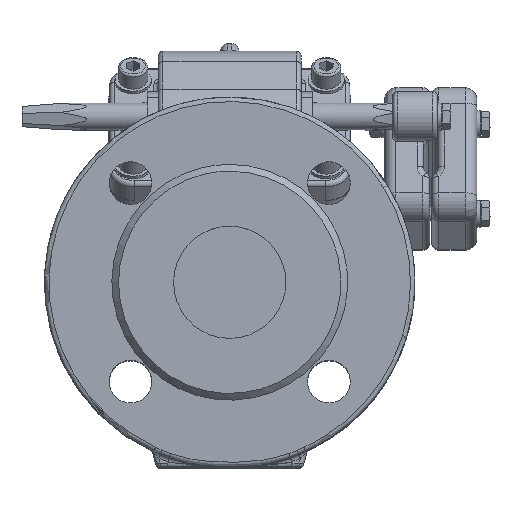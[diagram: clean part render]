
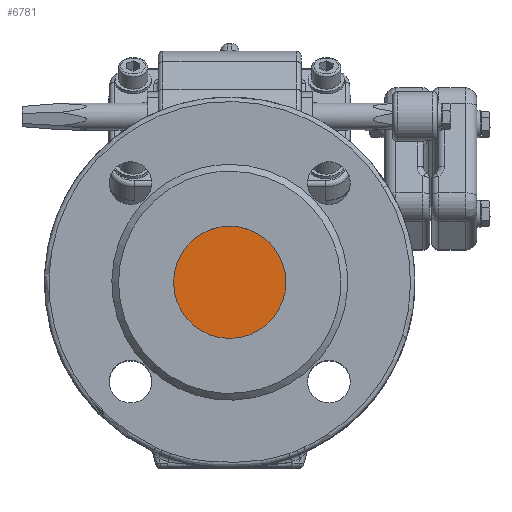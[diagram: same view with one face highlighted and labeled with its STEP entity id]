
A CAD part, top view. The second image highlights one B-rep face of the part: STEP entity #6781.
In plain terms, the highlighted planar face has unit normal (0, 0, 1).
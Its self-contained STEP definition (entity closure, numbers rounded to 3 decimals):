
#6781=ADVANCED_FACE('',(#20476),#20478,.F.);
#20476=FACE_BOUND('',#20477,.T.);
#20477=EDGE_LOOP('',(#28231,#28232));
#20478=PLANE('',#20479);
#20479=AXIS2_PLACEMENT_3D('',#20480,#20481,#20482);
#20480=CARTESIAN_POINT('',(-25.002,0.,85.));
#20481=DIRECTION('',(0.,0.,-1.));
#20482=DIRECTION('',(-1.,0.,0.));
#28231=ORIENTED_EDGE('',*,*,#31747,.T.);
#28232=ORIENTED_EDGE('',*,*,#31748,.T.);
#31747=EDGE_CURVE('',#35558,#35559,#35560,.T.);
#31748=EDGE_CURVE('',#35559,#35558,#35561,.T.);
#35558=VERTEX_POINT('',#61945);
#35559=VERTEX_POINT('',#61946);
#35560=CIRCLE('',#61947,25.);
#35561=CIRCLE('',#61951,25.);
#61945=CARTESIAN_POINT('',(-25.,0.,85.));
#61946=CARTESIAN_POINT('',(0.,-25.,85.));
#61947=AXIS2_PLACEMENT_3D('',#61948,#61949,#61950);
#61948=CARTESIAN_POINT('',(0.,0.,85.));
#61949=DIRECTION('',(0.,0.,1.));
#61950=DIRECTION('',(-1.,0.,0.));
#61951=AXIS2_PLACEMENT_3D('',#61952,#61953,#61954);
#61952=CARTESIAN_POINT('',(0.,0.,85.));
#61953=DIRECTION('',(0.,0.,1.));
#61954=DIRECTION('',(0.,-1.,0.));
